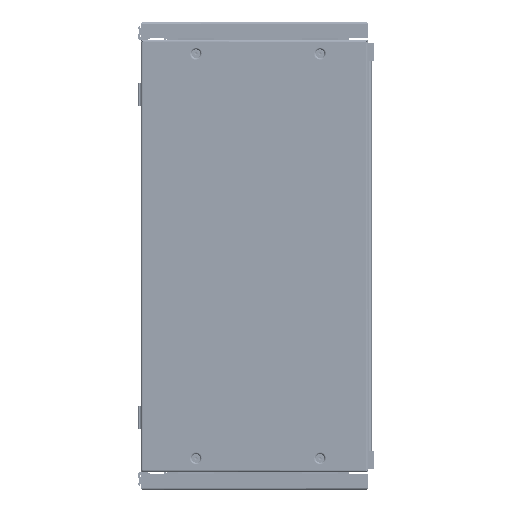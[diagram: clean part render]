
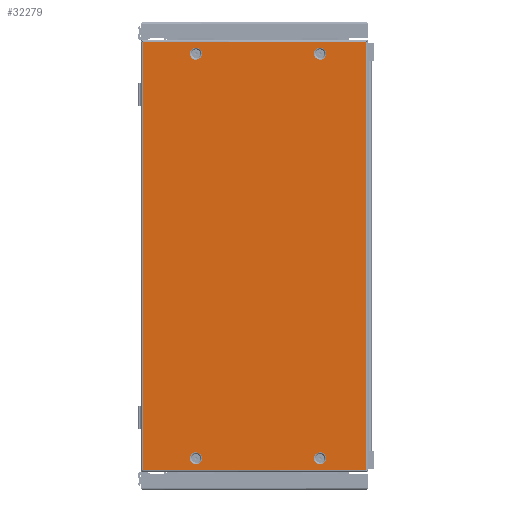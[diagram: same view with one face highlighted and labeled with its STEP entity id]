
A CAD part, left-side view. The second image highlights one B-rep face of the part: STEP entity #32279.
In plain terms, the highlighted planar face has unit normal (-1, 0, 0) as drawn and (0, 0, -1) by its records, which use the part's own axes.
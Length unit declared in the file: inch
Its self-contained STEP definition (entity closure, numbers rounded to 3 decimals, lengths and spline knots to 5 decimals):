
#281 = VERTEX_POINT ( 'NONE', #107581 ) ;
#577 = CARTESIAN_POINT ( 'NONE',  ( -10.57098, 2.97047, -0.055 ) ) ;
#1015 = DIRECTION ( 'NONE',  ( 0., 0., -1. ) ) ;
#2423 = CARTESIAN_POINT ( 'NONE',  ( -10.26457, -3.32874, -0.055 ) ) ;
#4271 = ORIENTED_EDGE ( 'NONE', *, *, #78808, .F. ) ;
#5602 = EDGE_CURVE ( 'NONE', #105645, #281, #124651, .T. ) ;
#5635 = CARTESIAN_POINT ( 'NONE',  ( 10.84957, -5.65083, -0.055 ) ) ;
#7871 = CARTESIAN_POINT ( 'NONE',  ( 10.26457, -3.32874, -0.055 ) ) ;
#8221 = LINE ( 'NONE', #49900, #59367 ) ;
#8995 = VERTEX_POINT ( 'NONE', #577 ) ;
#9618 = FACE_OUTER_BOUND ( 'NONE', #131529, .T. ) ;
#11489 = CARTESIAN_POINT ( 'NONE',  ( -10.26457, 2.97047, -0.055 ) ) ;
#12292 = DIRECTION ( 'NONE',  ( 0., 0., -1. ) ) ;
#12695 = DIRECTION ( 'NONE',  ( 1., 0., 0. ) ) ;
#13259 = VERTEX_POINT ( 'NONE', #55557 ) ;
#14242 = CARTESIAN_POINT ( 'NONE',  ( -10.84957, -5.65083, -0.055 ) ) ;
#14471 = EDGE_CURVE ( 'NONE', #81769, #54095, #66212, .T. ) ;
#14679 = DIRECTION ( 'NONE',  ( 0., 1., 0. ) ) ;
#15764 = CARTESIAN_POINT ( 'NONE',  ( 10.84957, -5.65083, -0.055 ) ) ;
#16021 = LINE ( 'NONE', #15764, #43156 ) ;
#18196 = DIRECTION ( 'NONE',  ( -1., 0., 0. ) ) ;
#20415 = CARTESIAN_POINT ( 'NONE',  ( -10.57098, -3.32874, -0.055 ) ) ;
#21652 = DIRECTION ( 'NONE',  ( 0., 0., -1. ) ) ;
#21829 = DIRECTION ( 'NONE',  ( 1., 0., 0. ) ) ;
#25543 = AXIS2_PLACEMENT_3D ( 'NONE', #73537, #12292, #83900 ) ;
#26036 = DIRECTION ( 'NONE',  ( -1., 0., 0. ) ) ;
#26444 = ORIENTED_EDGE ( 'NONE', *, *, #61124, .F. ) ;
#26497 = LINE ( 'NONE', #50325, #104997 ) ;
#29258 = EDGE_LOOP ( 'NONE', ( #26444, #128168 ) ) ;
#29734 = EDGE_LOOP ( 'NONE', ( #35686, #89959 ) ) ;
#30565 = EDGE_LOOP ( 'NONE', ( #31190, #4271 ) ) ;
#31190 = ORIENTED_EDGE ( 'NONE', *, *, #119174, .F. ) ;
#31597 = ORIENTED_EDGE ( 'NONE', *, *, #110060, .T. ) ;
#32279 = ADVANCED_FACE ( 'NONE', ( #36841, #60760, #9618, #121737, #115303 ), #101326, .T. ) ;
#33527 = AXIS2_PLACEMENT_3D ( 'NONE', #113330, #51914, #123588 ) ;
#35685 = AXIS2_PLACEMENT_3D ( 'NONE', #7871, #79435, #18196 ) ;
#35686 = ORIENTED_EDGE ( 'NONE', *, *, #74073, .T. ) ;
#36572 = VERTEX_POINT ( 'NONE', #84210 ) ;
#36841 = FACE_BOUND ( 'NONE', #29258, .T. ) ;
#39469 = AXIS2_PLACEMENT_3D ( 'NONE', #111604, #131750, #60456 ) ;
#43156 = VECTOR ( 'NONE', #26036, 39.37008 ) ;
#44768 = EDGE_CURVE ( 'NONE', #8995, #104511, #103846, .T. ) ;
#46863 = AXIS2_PLACEMENT_3D ( 'NONE', #2423, #73944, #12695 ) ;
#49900 = CARTESIAN_POINT ( 'NONE',  ( -10.84957, 5.65083, -0.055 ) ) ;
#50325 = CARTESIAN_POINT ( 'NONE',  ( 10.84957, 5.76583, -0.055 ) ) ;
#51914 = DIRECTION ( 'NONE',  ( 0., 0., 1. ) ) ;
#53435 = EDGE_CURVE ( 'NONE', #126007, #102919, #66226, .T. ) ;
#53967 = ORIENTED_EDGE ( 'NONE', *, *, #53435, .T. ) ;
#54095 = VERTEX_POINT ( 'NONE', #111442 ) ;
#55557 = CARTESIAN_POINT ( 'NONE',  ( 10.84957, 5.65083, -0.055 ) ) ;
#58013 = DIRECTION ( 'NONE',  ( 0., 0., 1. ) ) ;
#58638 = CIRCLE ( 'NONE', #33527, 0.30641 ) ;
#58841 = ORIENTED_EDGE ( 'NONE', *, *, #14471, .T. ) ;
#59367 = VECTOR ( 'NONE', #111312, 39.37008 ) ;
#60456 = DIRECTION ( 'NONE',  ( -1., 0., 0. ) ) ;
#60760 = FACE_BOUND ( 'NONE', #88854, .T. ) ;
#61124 = EDGE_CURVE ( 'NONE', #281, #105645, #90330, .T. ) ;
#61963 = ORIENTED_EDGE ( 'NONE', *, *, #123973, .T. ) ;
#62226 = CARTESIAN_POINT ( 'NONE',  ( 10.26457, -3.32874, -0.055 ) ) ;
#64484 = VERTEX_POINT ( 'NONE', #120337 ) ;
#66212 = LINE ( 'NONE', #127021, #120723 ) ;
#66226 = CIRCLE ( 'NONE', #46863, 0.30641 ) ;
#68136 = EDGE_CURVE ( 'NONE', #78469, #81769, #16021, .T. ) ;
#71193 = AXIS2_PLACEMENT_3D ( 'NONE', #119412, #58013, #129734 ) ;
#72554 = DIRECTION ( 'NONE',  ( -1., 0., 0. ) ) ;
#73537 = CARTESIAN_POINT ( 'NONE',  ( 10.26457, 2.97047, -0.055 ) ) ;
#73944 = DIRECTION ( 'NONE',  ( 0., 0., 1. ) ) ;
#74073 = EDGE_CURVE ( 'NONE', #104511, #8995, #130348, .T. ) ;
#77589 = CARTESIAN_POINT ( 'NONE',  ( -9.95815, -3.32874, -0.055 ) ) ;
#78469 = VERTEX_POINT ( 'NONE', #5635 ) ;
#78808 = EDGE_CURVE ( 'NONE', #36572, #64484, #123163, .T. ) ;
#79435 = DIRECTION ( 'NONE',  ( 0., 0., -1. ) ) ;
#81769 = VERTEX_POINT ( 'NONE', #14242 ) ;
#82893 = CARTESIAN_POINT ( 'NONE',  ( 10.26457, 2.97047, -0.055 ) ) ;
#83082 = DIRECTION ( 'NONE',  ( 0., 0., 1. ) ) ;
#83900 = DIRECTION ( 'NONE',  ( -1., 0., 0. ) ) ;
#84210 = CARTESIAN_POINT ( 'NONE',  ( 10.57098, 2.97047, -0.055 ) ) ;
#88854 = EDGE_LOOP ( 'NONE', ( #53967, #61963 ) ) ;
#89959 = ORIENTED_EDGE ( 'NONE', *, *, #44768, .T. ) ;
#90330 = CIRCLE ( 'NONE', #107572, 0.30641 ) ;
#91724 = ORIENTED_EDGE ( 'NONE', *, *, #68136, .T. ) ;
#93012 = CARTESIAN_POINT ( 'NONE',  ( -9.95815, 2.97047, -0.055 ) ) ;
#93236 = DIRECTION ( 'NONE',  ( -1., 0., 0. ) ) ;
#101326 = PLANE ( 'NONE',  #39469 ) ;
#102919 = VERTEX_POINT ( 'NONE', #20415 ) ;
#103846 = CIRCLE ( 'NONE', #71193, 0.30641 ) ;
#104511 = VERTEX_POINT ( 'NONE', #93012 ) ;
#104997 = VECTOR ( 'NONE', #132308, 39.37008 ) ;
#105645 = VERTEX_POINT ( 'NONE', #116926 ) ;
#107572 = AXIS2_PLACEMENT_3D ( 'NONE', #62226, #1015, #72554 ) ;
#107581 = CARTESIAN_POINT ( 'NONE',  ( 9.95815, -3.32874, -0.055 ) ) ;
#110060 = EDGE_CURVE ( 'NONE', #13259, #78469, #26497, .T. ) ;
#111312 = DIRECTION ( 'NONE',  ( 1., 0., 0. ) ) ;
#111442 = CARTESIAN_POINT ( 'NONE',  ( -10.84957, 5.65083, -0.055 ) ) ;
#111604 = CARTESIAN_POINT ( 'NONE',  ( -10.96457, -5.76583, -0.055 ) ) ;
#113330 = CARTESIAN_POINT ( 'NONE',  ( -10.26457, -3.32874, -0.055 ) ) ;
#115303 = FACE_BOUND ( 'NONE', #30565, .T. ) ;
#115454 = CIRCLE ( 'NONE', #25543, 0.30641 ) ;
#116756 = AXIS2_PLACEMENT_3D ( 'NONE', #11489, #83082, #21829 ) ;
#116926 = CARTESIAN_POINT ( 'NONE',  ( 10.57098, -3.32874, -0.055 ) ) ;
#118933 = EDGE_CURVE ( 'NONE', #54095, #13259, #8221, .T. ) ;
#119174 = EDGE_CURVE ( 'NONE', #64484, #36572, #115454, .T. ) ;
#119412 = CARTESIAN_POINT ( 'NONE',  ( -10.26457, 2.97047, -0.055 ) ) ;
#120337 = CARTESIAN_POINT ( 'NONE',  ( 9.95815, 2.97047, -0.055 ) ) ;
#120723 = VECTOR ( 'NONE', #14679, 39.37008 ) ;
#121737 = FACE_BOUND ( 'NONE', #29734, .T. ) ;
#123163 = CIRCLE ( 'NONE', #124778, 0.30641 ) ;
#123588 = DIRECTION ( 'NONE',  ( 1., 0., 0. ) ) ;
#123973 = EDGE_CURVE ( 'NONE', #102919, #126007, #58638, .T. ) ;
#124651 = CIRCLE ( 'NONE', #35685, 0.30641 ) ;
#124778 = AXIS2_PLACEMENT_3D ( 'NONE', #82893, #21652, #93236 ) ;
#126007 = VERTEX_POINT ( 'NONE', #77589 ) ;
#126048 = ORIENTED_EDGE ( 'NONE', *, *, #118933, .T. ) ;
#127021 = CARTESIAN_POINT ( 'NONE',  ( -10.84957, -5.76583, -0.055 ) ) ;
#128168 = ORIENTED_EDGE ( 'NONE', *, *, #5602, .F. ) ;
#129734 = DIRECTION ( 'NONE',  ( 1., 0., 0. ) ) ;
#130348 = CIRCLE ( 'NONE', #116756, 0.30641 ) ;
#131529 = EDGE_LOOP ( 'NONE', ( #31597, #91724, #58841, #126048 ) ) ;
#131750 = DIRECTION ( 'NONE',  ( 0., 0., -1. ) ) ;
#132308 = DIRECTION ( 'NONE',  ( 0., -1., 0. ) ) ;
